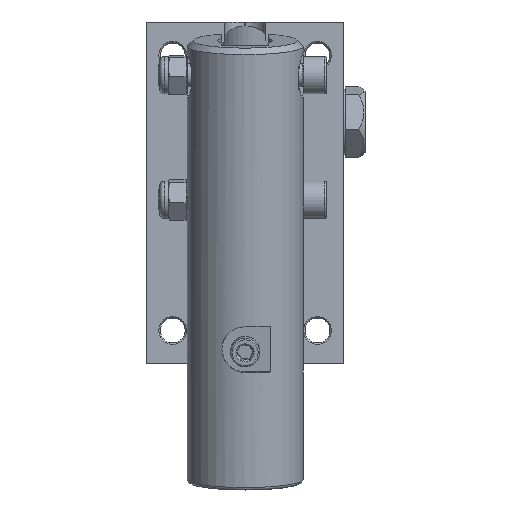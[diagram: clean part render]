
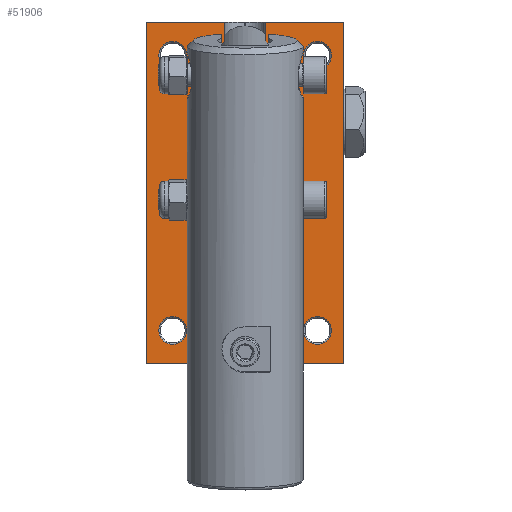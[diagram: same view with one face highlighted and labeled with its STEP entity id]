
A CAD part, top view. The second image highlights one B-rep face of the part: STEP entity #51906.
In plain terms, the highlighted planar face has unit normal (0, 0, 1).
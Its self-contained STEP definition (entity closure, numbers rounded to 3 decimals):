
#295=LINE('',#68495,#4853);
#296=LINE('',#68497,#4854);
#299=LINE('',#68502,#4857);
#301=LINE('',#68506,#4859);
#302=LINE('',#68508,#4860);
#303=LINE('',#68510,#4861);
#305=LINE('',#68513,#4863);
#307=LINE('',#68518,#4865);
#310=LINE('',#68539,#4868);
#315=LINE('',#68551,#4873);
#317=LINE('',#68554,#4875);
#318=LINE('',#68556,#4876);
#4853=VECTOR('',#57688,1000.);
#4854=VECTOR('',#57691,1000.);
#4857=VECTOR('',#57694,1000.);
#4859=VECTOR('',#57698,1000.);
#4860=VECTOR('',#57701,1000.);
#4861=VECTOR('',#57704,1000.);
#4863=VECTOR('',#57706,1000.);
#4865=VECTOR('',#57710,1000.);
#4868=VECTOR('',#57735,1000.);
#4873=VECTOR('',#57746,1000.);
#4875=VECTOR('',#57748,1000.);
#4876=VECTOR('',#57751,1000.);
#9341=PLANE('',#54198);
#12506=ORIENTED_EDGE('',*,*,#22738,.T.);
#12507=ORIENTED_EDGE('',*,*,#22737,.T.);
#12508=ORIENTED_EDGE('',*,*,#22736,.T.);
#12509=ORIENTED_EDGE('',*,*,#22735,.T.);
#12510=ORIENTED_EDGE('',*,*,#22748,.T.);
#12511=ORIENTED_EDGE('',*,*,#22749,.F.);
#12512=ORIENTED_EDGE('',*,*,#22740,.F.);
#12513=ORIENTED_EDGE('',*,*,#22732,.F.);
#12514=ORIENTED_EDGE('',*,*,#22746,.T.);
#12515=ORIENTED_EDGE('',*,*,#22728,.T.);
#12516=ORIENTED_EDGE('',*,*,#22727,.T.);
#12517=ORIENTED_EDGE('',*,*,#22730,.T.);
#12518=ORIENTED_EDGE('',*,*,#22726,.F.);
#12519=ORIENTED_EDGE('',*,*,#22721,.T.);
#12520=ORIENTED_EDGE('',*,*,#22720,.T.);
#12521=ORIENTED_EDGE('',*,*,#22724,.T.);
#12522=ORIENTED_EDGE('',*,*,#22719,.T.);
#22719=EDGE_CURVE('',#27970,#27970,#31338,.F.);
#22720=EDGE_CURVE('',#27942,#27945,#295,.T.);
#22721=EDGE_CURVE('',#27971,#27942,#296,.T.);
#22724=EDGE_CURVE('',#27945,#27972,#299,.T.);
#22726=EDGE_CURVE('',#27971,#27973,#301,.T.);
#22727=EDGE_CURVE('',#27944,#27943,#302,.T.);
#22728=EDGE_CURVE('',#27974,#27944,#303,.T.);
#22730=EDGE_CURVE('',#27943,#27973,#305,.T.);
#22732=EDGE_CURVE('',#27976,#27977,#307,.T.);
#22735=EDGE_CURVE('',#27979,#27979,#31339,.F.);
#22736=EDGE_CURVE('',#27980,#27980,#31340,.F.);
#22737=EDGE_CURVE('',#27981,#27981,#31341,.F.);
#22738=EDGE_CURVE('',#27982,#27982,#31342,.F.);
#22740=EDGE_CURVE('',#27977,#27984,#310,.T.);
#22746=EDGE_CURVE('',#27976,#27974,#315,.T.);
#22748=EDGE_CURVE('',#27972,#27988,#317,.T.);
#22749=EDGE_CURVE('',#27984,#27988,#318,.T.);
#27942=VERTEX_POINT('',#68394);
#27943=VERTEX_POINT('',#68397);
#27944=VERTEX_POINT('',#68400);
#27945=VERTEX_POINT('',#68403);
#27970=VERTEX_POINT('',#68493);
#27971=VERTEX_POINT('',#68498);
#27972=VERTEX_POINT('',#68501);
#27973=VERTEX_POINT('',#68505);
#27974=VERTEX_POINT('',#68511);
#27976=VERTEX_POINT('',#68517);
#27977=VERTEX_POINT('',#68519);
#27979=VERTEX_POINT('',#68525);
#27980=VERTEX_POINT('',#68528);
#27981=VERTEX_POINT('',#68531);
#27982=VERTEX_POINT('',#68534);
#27984=VERTEX_POINT('',#68540);
#27988=VERTEX_POINT('',#68553);
#31338=CIRCLE('',#54177,19.056);
#31339=CIRCLE('',#54185,4.795);
#31340=CIRCLE('',#54187,4.795);
#31341=CIRCLE('',#54189,4.795);
#31342=CIRCLE('',#54191,4.795);
#32257=EDGE_LOOP('',(#12506));
#32258=EDGE_LOOP('',(#12507));
#32259=EDGE_LOOP('',(#12508));
#32260=EDGE_LOOP('',(#12509));
#32261=EDGE_LOOP('',(#12510,#12511,#12512,#12513,#12514,#12515,#12516,#12517,
#12518,#12519,#12520,#12521));
#32262=EDGE_LOOP('',(#12522));
#34918=FACE_BOUND('',#32257,.T.);
#34919=FACE_BOUND('',#32258,.T.);
#34920=FACE_BOUND('',#32259,.T.);
#34921=FACE_BOUND('',#32260,.T.);
#34922=FACE_BOUND('',#32261,.T.);
#34923=FACE_BOUND('',#32262,.T.);
#51906=ADVANCED_FACE('',(#34918,#34919,#34920,#34921,#34922,#34923),#9341,
 .T.);
#54177=AXIS2_PLACEMENT_3D('',#68492,#57684,#57685);
#54185=AXIS2_PLACEMENT_3D('',#68524,#57715,#57716);
#54187=AXIS2_PLACEMENT_3D('',#68527,#57719,#57720);
#54189=AXIS2_PLACEMENT_3D('',#68530,#57723,#57724);
#54191=AXIS2_PLACEMENT_3D('',#68533,#57727,#57728);
#54198=AXIS2_PLACEMENT_3D('',#68555,#57749,#57750);
#57684=DIRECTION('',(0.,0.,1.));
#57685=DIRECTION('',(1.,0.,0.));
#57688=DIRECTION('',(0.,1.,0.));
#57691=DIRECTION('',(0.,1.,0.));
#57694=DIRECTION('',(0.,1.,0.));
#57698=DIRECTION('',(1.,0.,0.));
#57701=DIRECTION('',(0.,-1.,0.));
#57704=DIRECTION('',(0.,-1.,0.));
#57706=DIRECTION('',(0.,-1.,0.));
#57710=DIRECTION('',(0.,-1.,0.));
#57715=DIRECTION('',(0.,0.,1.));
#57716=DIRECTION('',(1.,0.,0.));
#57719=DIRECTION('',(0.,0.,1.));
#57720=DIRECTION('',(1.,0.,0.));
#57723=DIRECTION('',(0.,0.,1.));
#57724=DIRECTION('',(1.,0.,0.));
#57727=DIRECTION('',(0.,0.,1.));
#57728=DIRECTION('',(1.,0.,0.));
#57735=DIRECTION('',(-1.,0.,0.));
#57746=DIRECTION('',(-1.,0.,0.));
#57748=DIRECTION('',(-1.,0.,0.));
#57749=DIRECTION('',(0.,0.,1.));
#57750=DIRECTION('',(1.,0.,0.));
#57751=DIRECTION('',(0.,1.,0.));
#68394=CARTESIAN_POINT('',(-6.993,98.379,21.985));
#68397=CARTESIAN_POINT('',(6.993,98.379,21.985));
#68400=CARTESIAN_POINT('',(6.993,112.706,21.985));
#68403=CARTESIAN_POINT('',(-6.993,112.706,21.985));
#68492=CARTESIAN_POINT('',(0.,56.499,21.985));
#68493=CARTESIAN_POINT('',(19.056,56.499,21.985));
#68495=CARTESIAN_POINT('',(-6.993,96.68,21.985));
#68497=CARTESIAN_POINT('',(-6.993,96.68,21.985));
#68498=CARTESIAN_POINT('',(-6.993,94.461,21.985));
#68501=CARTESIAN_POINT('',(-6.993,117.937,21.985));
#68502=CARTESIAN_POINT('',(-6.993,96.68,21.985));
#68505=CARTESIAN_POINT('',(6.993,94.461,21.985));
#68506=CARTESIAN_POINT('',(-4.001,94.461,21.985));
#68508=CARTESIAN_POINT('',(6.993,118.936,21.985));
#68510=CARTESIAN_POINT('',(6.993,118.936,21.985));
#68511=CARTESIAN_POINT('',(6.993,117.937,21.985));
#68513=CARTESIAN_POINT('',(6.993,118.936,21.985));
#68517=CARTESIAN_POINT('',(33.966,117.937,21.985));
#68518=CARTESIAN_POINT('',(33.966,118.936,21.985));
#68519=CARTESIAN_POINT('',(33.966,0.055,21.985));
#68524=CARTESIAN_POINT('',(-24.975,106.449,21.985));
#68525=CARTESIAN_POINT('',(-20.18,106.449,21.985));
#68527=CARTESIAN_POINT('',(24.975,106.449,21.985));
#68528=CARTESIAN_POINT('',(29.77,106.449,21.985));
#68530=CARTESIAN_POINT('',(-24.975,11.544,21.985));
#68531=CARTESIAN_POINT('',(-20.18,11.544,21.985));
#68533=CARTESIAN_POINT('',(24.975,11.544,21.985));
#68534=CARTESIAN_POINT('',(29.77,11.544,21.985));
#68539=CARTESIAN_POINT('',(35.964,0.055,21.985));
#68540=CARTESIAN_POINT('',(-33.966,0.055,21.985));
#68551=CARTESIAN_POINT('',(34.965,117.937,21.985));
#68553=CARTESIAN_POINT('',(-33.966,117.937,21.985));
#68554=CARTESIAN_POINT('',(34.965,117.937,21.985));
#68555=CARTESIAN_POINT('',(0.,23.532,21.985));
#68556=CARTESIAN_POINT('',(-33.966,20.5,21.985));
